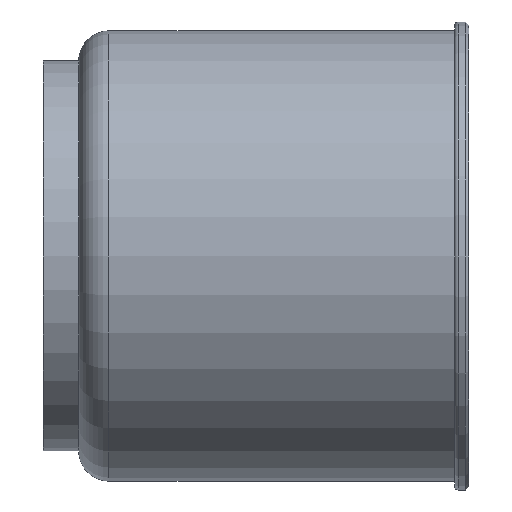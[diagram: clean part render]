
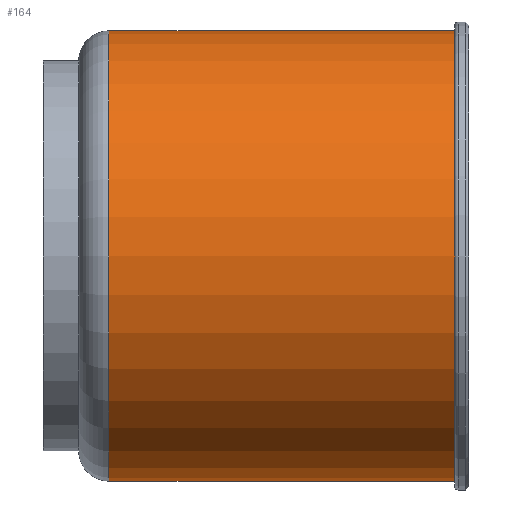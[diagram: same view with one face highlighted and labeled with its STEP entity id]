
A CAD part, front view. The second image highlights one B-rep face of the part: STEP entity #164.
In plain terms, the highlighted cylindrical face has radius 63.5 mm (diameter 127 mm), a full revolution.
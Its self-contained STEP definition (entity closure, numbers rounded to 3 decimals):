
#19=CYLINDRICAL_SURFACE($,#184,63.5);
#25=FACE_BOUND($,#57,.T.);
#42=FACE_OUTER_BOUND($,#56,.T.);
#56=EDGE_LOOP($,(#131));
#57=EDGE_LOOP($,(#132));
#84=CIRCLE($,#182,63.5);
#86=CIRCLE($,#185,63.5);
#99=VERTEX_POINT($,#275);
#101=VERTEX_POINT($,#280);
#114=EDGE_CURVE($,#99,#99,#84,.T.);
#116=EDGE_CURVE($,#101,#101,#86,.T.);
#131=ORIENTED_EDGE($,*,*,#116,.F.);
#132=ORIENTED_EDGE($,*,*,#114,.T.);
#164=ADVANCED_FACE($,(#42,#25),#19,.T.);
#182=AXIS2_PLACEMENT_3D($,#276,#215,#216);
#184=AXIS2_PLACEMENT_3D($,#279,#219,#220);
#185=AXIS2_PLACEMENT_3D($,#281,#221,#222);
#215=DIRECTION('center_axis',(1.,0.,0.));
#216=DIRECTION('ref_axis',(0.,1.,0.));
#219=DIRECTION('center_axis',(1.,0.,0.));
#220=DIRECTION('ref_axis',(0.,1.,0.));
#221=DIRECTION('center_axis',(1.,0.,0.));
#222=DIRECTION('ref_axis',(0.,1.,0.));
#275=CARTESIAN_POINT('',(18.5,63.5,0.));
#276=CARTESIAN_POINT('Origin',(18.5,0.,0.));
#279=CARTESIAN_POINT('Origin',(67.25,0.,0.));
#280=CARTESIAN_POINT('',(116.,63.5,0.));
#281=CARTESIAN_POINT('Origin',(116.,0.,0.));
